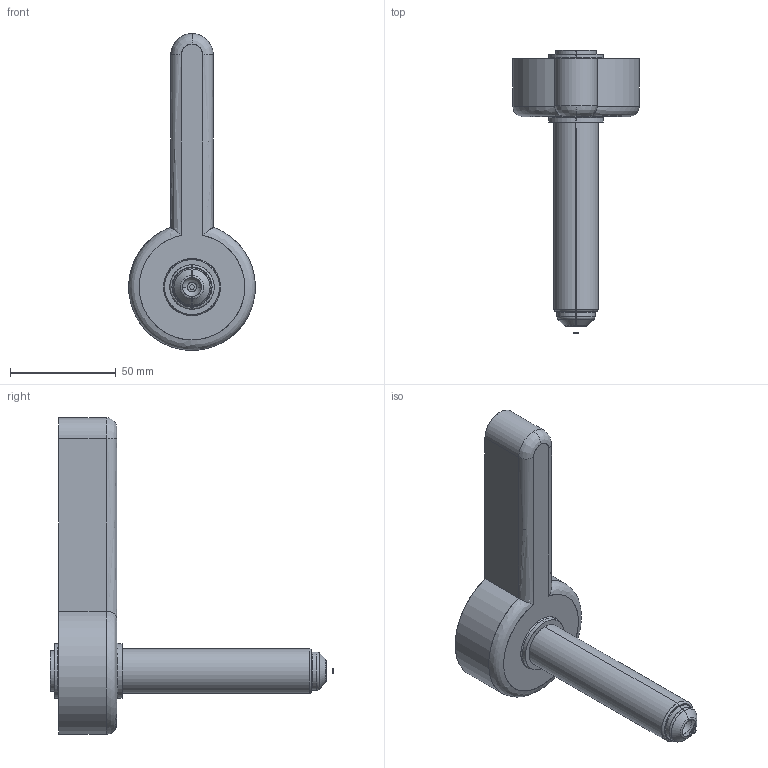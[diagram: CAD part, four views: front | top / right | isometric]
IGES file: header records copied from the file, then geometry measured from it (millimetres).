
Start section: SolidWorks IGES file using analytic representation for surfaces
Global section: file name: C:\Documents and Settings\ws-20\Desktop\TEM\Sede UGER2504-S-A C-100 L-132 Ød-2.0.IGS; native system: SolidWorks 2012; preprocessor: SolidWorks 2012; author: ws-20; date: 120405.111736; units: millimetre
Bounding box: 60 x 134.25 x 150 mm (x, y, z)
Surface area: 26149.2 mm2 (no closed solid volume)
Topology: 0 solids, 0 shells, 47 faces, 734 edges, 734 vertices
Faces by surface type: revolution 27, bspline 20
